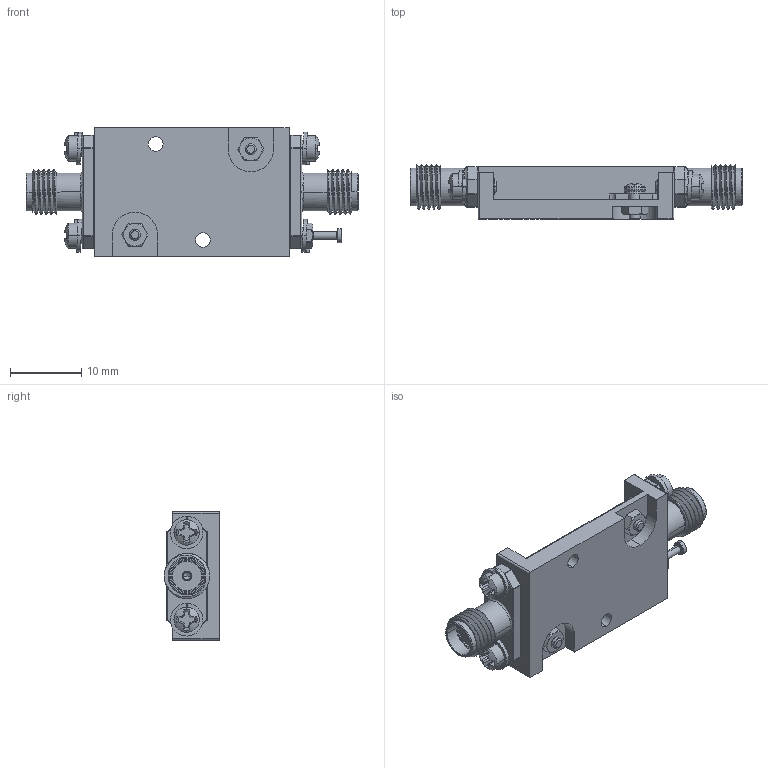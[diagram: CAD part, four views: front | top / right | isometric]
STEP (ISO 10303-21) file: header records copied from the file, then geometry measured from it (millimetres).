
FILE_DESCRIPTION (( 'STEP AP214' ), '1' );
FILE_NAME ('HP-1D2G18G-CD-SFF 3D Model.STEP', '2024-10-14T17:00:52', ( '' ), ( '' ), 'SwSTEP 2.0', 'SolidWorks 2024', '' );
FILE_SCHEMA (( 'AUTOMOTIVE_DESIGN' ));
Length unit declared in the file: inch
Products named in the file (1): HP-1D2G18G-CD-SFF 3D Model
Bounding box: 46.48 x 7.75 x 18.03 mm (x, y, z)
Volume: 2751.9 mm3; surface area: 5469.3 mm2
Topology: 48 solids, 48 shells, 1167 faces, 3916 edges, 2927 vertices
Faces by surface type: plane 506, cylinder 325, torus 119, cone 110, sphere 71, bspline 36
Entity records: 47930 total; most frequent: CARTESIAN_POINT 12732, ORIENTED_EDGE 7716, DIRECTION 6702, EDGE_CURVE 3858, VERTEX_POINT 2923, LINE 2388, VECTOR 2388, AXIS2_PLACEMENT_3D 2157
